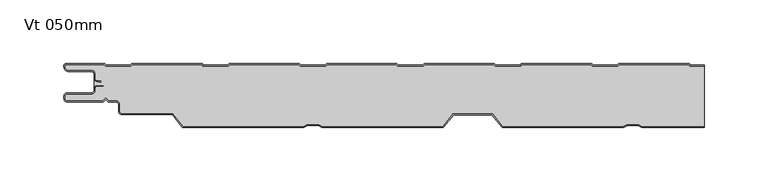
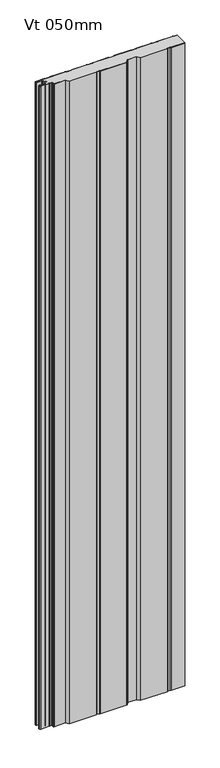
"""IFC4 building model written with IfcOpenShell, lengths in millimetres: plate geometry, KIP-MEX-KW-R19-CP-Vt-KW7_SL : Vt 050mm."""

import ifcopenshell
import ifcopenshell.guid

model = None  # the IFC model being written
_history = None  # IfcOwnerHistory: only IFC2X3 demands one
_inside = {}  # id of a spatial element -> (the spatial element, [elements in it])
_under = {}  # id of a project, library or spatial element -> (it, [spatial elements below it])
_declared = {}  # id of a project -> (the project, [libraries it declares])
_typed = {}  # id of a type object -> (the type object, [elements of that type])
_made_of = {}  # id of a material, layer set ... -> (it, [elements and type objects made of it])


def new_model(schema):
    """Start an empty IFC model of exactly this schema.

    Asked for "IFC4X3", IfcOpenShell would pick the latest addendum, in which some entities
    have other attributes; the version numbers below select the first issue.
    IFC2X3 requires an IfcOwnerHistory on every rooted entity: one is made here for all.
    """
    global model, _history
    if schema == "IFC4X3":
        model = ifcopenshell.file(schema_version=(4, 3, 0, 0))
    else:
        model = ifcopenshell.file(schema=schema)
    _inside.clear()
    _under.clear()
    _declared.clear()
    _typed.clear()
    _made_of.clear()
    _history = None
    if model.schema == "IFC2X3":
        org = make("IfcOrganization", Name="unknown")
        user = make(
            "IfcPersonAndOrganization",
            ThePerson=make("IfcPerson", FamilyName="unknown"),
            TheOrganization=org,
        )
        app = make(
            "IfcApplication",
            ApplicationDeveloper=org,
            Version="unknown",
            ApplicationFullName="unknown",
            ApplicationIdentifier="unknown",
        )
        _history = make(
            "IfcOwnerHistory",
            OwningUser=user,
            OwningApplication=app,
            ChangeAction="ADDED",
            CreationDate=0,
        )
    return model


def make(cls, **values):
    """One entity of the class cls with the attributes given. An attribute that is None is left unset."""
    return model.create_entity(
        cls, **{name: value for name, value in values.items() if value is not None}
    )


def rooted(cls, **values):
    """An entity with a GlobalId (a new one), such as an element, a storey or a relation."""
    return make(cls, GlobalId=ifcopenshell.guid.new(), OwnerHistory=_history, **values)


def si_unit(unit_type, name, prefix=None):
    """IfcSIUnit, for example si_unit("LENGTHUNIT", "METRE", prefix="MILLI")."""
    return make("IfcSIUnit", UnitType=unit_type, Prefix=prefix, Name=name)


def assignment(units):
    """IfcUnitAssignment: the units of a project."""
    return None if units is None else make("IfcUnitAssignment", Units=units)


def point(xyz):
    """IfcCartesianPoint."""
    return None if xyz is None else make("IfcCartesianPoint", Coordinates=xyz)


def direction(xyz):
    """IfcDirection."""
    return None if xyz is None else make("IfcDirection", DirectionRatios=xyz)


def frame(location, z_axis=None, x_axis=None):
    """IfcAxis2Placement3D, a coordinate frame: its origin and axes. An axis left out is left unset."""
    return make(
        "IfcAxis2Placement3D",
        Location=point(location),
        Axis=direction(z_axis),
        RefDirection=direction(x_axis),
    )


def frame_2d(location, x_axis=None):
    """IfcAxis2Placement2D, a coordinate frame in the plane: its origin and x axis."""
    return make(
        "IfcAxis2Placement2D", Location=point(location), RefDirection=direction(x_axis)
    )


def origin():
    """The frame at (0, 0, 0) with its axes left unset."""
    return frame((0.0, 0.0, 0.0))


def origin_with_axes():
    """The frame at (0, 0, 0) with the z axis (0, 0, 1) and the x axis (1, 0, 0) written out."""
    return frame((0.0, 0.0, 0.0), z_axis=(0.0, 0.0, 1.0), x_axis=(1.0, 0.0, 0.0))


def place(relative_to, where):
    """IfcLocalPlacement: puts the frame where relative to a parent placement (None: the world)."""
    return make(
        "IfcLocalPlacement", PlacementRelTo=relative_to, RelativePlacement=where
    )


def context(
    kind, dimensions, precision=None, world=None, true_north=None, identifier=None
):
    """IfcGeometricRepresentationContext, for example the 3D "Model" context."""
    return make(
        "IfcGeometricRepresentationContext",
        ContextIdentifier=identifier,
        ContextType=kind,
        CoordinateSpaceDimension=dimensions,
        Precision=precision,
        WorldCoordinateSystem=world,
        TrueNorth=true_north,
    )


def project(units=None, contexts=None):
    """IfcProject with its units and contexts."""
    return rooted(
        "IfcProject",
        Name="project",
        RepresentationContexts=contexts,
        UnitsInContext=assignment(units),
    )


def spatial(cls, under=None, at=None, **own):
    """A site, building, storey or space (cls), placed at a placement, below another one or the project."""
    s = rooted(cls, ObjectPlacement=at, **own)
    if under is not None:
        _under.setdefault(under.id(), (under, []))[1].append(s)
    return s


def polyline(points):
    """IfcPolyline through the points."""
    return make("IfcPolyline", Points=[point(p) for p in points])


def circle_curve(where, radius):
    """IfcCircle in the frame where."""
    return make("IfcCircle", Position=where, Radius=radius)


def trimmed(basis, trim1, trim2, sense, master):
    """IfcTrimmedCurve: the piece of a basis curve between two trims."""
    return make(
        "IfcTrimmedCurve",
        BasisCurve=basis,
        Trim1=trim1,
        Trim2=trim2,
        SenseAgreement=sense,
        MasterRepresentation=master,
    )


def segment(curve, same_sense, transition):
    """IfcCompositeCurveSegment."""
    return make(
        "IfcCompositeCurveSegment",
        Transition=transition,
        SameSense=same_sense,
        ParentCurve=curve,
    )


def composite_curve(segments, self_intersect=None):
    """IfcCompositeCurve: segments joined end to end."""
    return make("IfcCompositeCurve", Segments=segments, SelfIntersect=self_intersect)


def outline(outer, holes=None, kind="AREA"):
    """IfcArbitraryClosedProfileDef: a profile drawn as a closed curve; with holes, ...WithVoids."""
    if holes is None:
        return make("IfcArbitraryClosedProfileDef", ProfileType=kind, OuterCurve=outer)
    return make(
        "IfcArbitraryProfileDefWithVoids",
        ProfileType=kind,
        OuterCurve=outer,
        InnerCurves=holes,
    )


def extrude(swept, where, along, depth):
    """IfcExtrudedAreaSolid: the profile swept, set in the frame where, extruded along a direction by depth."""
    return make(
        "IfcExtrudedAreaSolid",
        SweptArea=swept,
        Position=where,
        ExtrudedDirection=direction(along),
        Depth=depth,
    )


def shape(context_of_items, identifier, shape_type, items):
    """IfcShapeRepresentation: the items that make up one representation, for example the "Body"."""
    return make(
        "IfcShapeRepresentation",
        ContextOfItems=context_of_items,
        RepresentationIdentifier=identifier,
        RepresentationType=shape_type,
        Items=items,
    )


def source(mapping_origin, context_of_items, identifier, shape_type, items):
    """IfcRepresentationMap: a shape defined once, which mapped items show again and again."""
    return make(
        "IfcRepresentationMap",
        MappingOrigin=mapping_origin,
        MappedRepresentation=shape(context_of_items, identifier, shape_type, items),
    )


def transform(
    local_origin,
    x_axis=None,
    y_axis=None,
    z_axis=None,
    scale=None,
    scale2=None,
    scale3=None,
    uniform=True,
):
    """IfcCartesianTransformationOperator3D, or its non-uniform kind. x_axis, y_axis, z_axis: its Axis1, 2, 3."""
    if uniform:
        return make(
            "IfcCartesianTransformationOperator3D",
            Axis1=direction(x_axis),
            Axis2=direction(y_axis),
            LocalOrigin=point(local_origin),
            Scale=scale,
            Axis3=direction(z_axis),
        )
    return make(
        "IfcCartesianTransformationOperator3DnonUniform",
        Axis1=direction(x_axis),
        Axis2=direction(y_axis),
        LocalOrigin=point(local_origin),
        Scale=scale,
        Axis3=direction(z_axis),
        Scale2=scale2,
        Scale3=scale3,
    )


def mapped(mapping_source, mapping_target):
    """IfcMappedItem: shows the shape of a source again, moved by a transform."""
    return make(
        "IfcMappedItem", MappingSource=mapping_source, MappingTarget=mapping_target
    )


def made_of(thing, what):
    """Note that an element or type object is made of a material, layer set ...; save() writes the relation."""
    if what is not None:
        _made_of.setdefault(what.id(), (what, []))[1].append(thing)
    return thing


def element(
    cls,
    number,
    at=None,
    inside=None,
    cuts=None,
    type_object=None,
    material=None,
    context=None,
    identifier="Body",
    shape_type=None,
    held_by="IfcProductDefinitionShape",
    body=None,
    shapes=None,
    **own,
):
    """One element of the class cls, such as IfcWall. Its Tag is "e" and its number.

    at: its placement. inside: the storey or other place that contains it. cuts: it is an
    opening in that element (IfcRelVoidsElement). A single representation is given by context,
    identifier, shape_type and body (its items); several are given by shapes. held_by: the class
    of the entity that holds the representations. save() writes the other relations.
    """
    e = rooted(cls, Tag="e%d" % number, ObjectPlacement=at, **own)
    if body is not None:
        shapes = [shape(context, identifier, shape_type, body)]
    if shapes is not None:
        e.Representation = make(held_by, Representations=shapes)
    if inside is not None:
        _inside.setdefault(inside.id(), (inside, []))[1].append(e)
    if cuts is not None:
        rooted(
            "IfcRelVoidsElement", RelatingBuildingElement=cuts, RelatedOpeningElement=e
        )
    if type_object is not None:
        _typed.setdefault(type_object.id(), (type_object, []))[1].append(e)
    return made_of(e, material)


def aggregate(whole, parts):
    """IfcRelAggregates: a whole, such as a stair, and the parts it consists of."""
    return rooted("IfcRelAggregates", RelatingObject=whole, RelatedObjects=parts)


def save(model, path):
    """Write the relations noted so far, then the file.

    IfcRelAggregates (storeys below a building ...), IfcRelContainedInSpatialStructure (elements
    in a storey), IfcRelDefinesByType, IfcRelAssociatesMaterial and IfcRelDeclares: one each for
    every whole, place, type object, material and project.
    """
    for whole, parts in _under.values():
        aggregate(whole, parts)
    for where, things in _inside.values():
        rooted(
            "IfcRelContainedInSpatialStructure",
            RelatedElements=things,
            RelatingStructure=where,
        )
    for kind, things in _typed.values():
        rooted("IfcRelDefinesByType", RelatedObjects=things, RelatingType=kind)
    for what, things in _made_of.values():
        rooted("IfcRelAssociatesMaterial", RelatedObjects=things, RelatingMaterial=what)
    for by, libraries in _declared.values():
        rooted("IfcRelDeclares", RelatingContext=by, RelatedDefinitions=libraries)
    model.write(path)


def vt_050mm_d47c93f8(model_context):
    return source(origin(), model_context, "Body", "SweptSolid", [
        extrude(outline(composite_curve([segment(polyline([(225.9039135, -2.1994992), (236.9739551, -2.1994992), (236.9739551, -49.0007512), (188.3805585, -49.0007512), (185.3803716, -47.5007486), (176.9082613, -47.5007486), (173.9080744, -49.0007512), (79.6249413, -49.0007512), (71.6249413, -39.0007512), (40.6636916, -39.0007512), (32.6636916, -49.0007512), (-61.6194415, -49.0007512), (-64.6196284, -47.5007486), (-73.0917387, -47.5007486), (-76.0919256, -49.0007512), (-170.3679967, -49.0007512), (-178.2758107, -38.8807501), (-218.2556822, -38.8807501)]), True, "CONTINUOUS"), segment(trimmed(circle_curve(frame_2d((-218.2060101, -37.3815743)), 1.4999984), [point((-218.2556822, -38.8807501))], [point((-219.7060085, -37.3815743))], False, "CARTESIAN"), True, "CONTINUOUS"), segment(polyline([(-219.7060085, -37.3815743), (-219.7060085, -31.8815682)]), True, "CONTINUOUS"), segment(trimmed(circle_curve(frame_2d((-222.7060141, -31.8815682)), 3.0000056), [point((-219.7060085, -31.8815682))], [point((-222.7060141, -28.8815626))], True, "CARTESIAN"), True, "CONTINUOUS"), segment(polyline([(-222.7060141, -28.8815626), (-228.2917754, -28.8815626), (-230.7060114, -26.4674051), (-233.1202474, -28.8817196), (-261.0062104, -28.8817196)]), True, "CONTINUOUS"), segment(trimmed(circle_curve(frame_2d((-261.0062104, -27.3814897)), 1.5002298), [point((-261.0062104, -28.8817196))], [point((-262.5064402, -27.3814897))], False, "CARTESIAN"), True, "CONTINUOUS"), segment(polyline([(-262.5064402, -27.3814897), (-262.5064402, -25.3983418)]), True, "CONTINUOUS"), segment(trimmed(circle_curve(frame_2d((-261.0055873, -25.3983418)), 1.5008529), [point((-262.5064402, -25.3983418))], [point((-261.0430722, -23.8979571))], False, "CARTESIAN"), True, "CONTINUOUS"), segment(polyline([(-261.0430722, -23.8979571), (-242.0059123, -23.8979571)]), True, "CONTINUOUS"), segment(trimmed(circle_curve(frame_2d((-242.0059123, -20.8966056)), 3.0013516), [point((-242.0059123, -23.8979571))], [point((-239.0056877, -20.8143642))], True, "CARTESIAN"), True, "CONTINUOUS"), segment(polyline([(-239.0056877, -20.8143642), (-239.0056877, -19.3893811)]), True, "CONTINUOUS"), segment(trimmed(circle_curve(frame_2d((-237.5051476, -19.3893811)), 1.5005402), [point((-239.0056877, -19.3893811))], [point((-237.5062722, -17.8888414))], False, "CARTESIAN"), True, "CONTINUOUS"), segment(polyline([(-237.5062722, -17.8888414), (-232.2480455, -17.8888414), (-232.2480455, -16.8719911), (-237.5115852, -16.8719911)]), True, "CONTINUOUS"), segment(trimmed(circle_curve(frame_2d((-237.5097191, -19.3622712)), 2.4902807), [point((-237.5115852, -16.8719911))], [point((-239.9999998, -19.3622712))], True, "CARTESIAN"), True, "CONTINUOUS"), segment(polyline([(-239.9999998, -19.3622712), (-239.9999998, -11.7956848)]), True, "CONTINUOUS"), segment(trimmed(circle_curve(frame_2d((-237.507267, -11.5959632)), 2.500721), [point((-239.9999998, -11.7956848))], [point((-237.9396711, -14.0590167))], True, "CARTESIAN"), True, "CONTINUOUS"), segment(polyline([(-237.9396711, -14.0590167), (-234.3973739, -14.6808886), (-234.2244628, -13.6959552), (-237.7667627, -13.0740827)]), True, "CONTINUOUS"), segment(trimmed(circle_curve(frame_2d((-237.5072716, -11.5959732)), 1.5007143), [point((-237.7667627, -13.0740827))], [point((-239.0079859, -11.5959732))], False, "CARTESIAN"), True, "CONTINUOUS"), segment(polyline([(-239.0079859, -11.5959732), (-239.0079859, -8.000131)]), True, "CONTINUOUS"), segment(trimmed(circle_curve(frame_2d((-242.0093089, -8.002219)), 3.0013237), [point((-239.0079859, -8.000131))], [point((-242.0093089, -5.0008953))], True, "CARTESIAN"), True, "CONTINUOUS"), segment(polyline([(-242.0093089, -5.0008953), (-260.0061347, -5.0008953)]), True, "CONTINUOUS"), segment(trimmed(circle_curve(frame_2d((-260.0061347, -2.5012654)), 2.4996299), [point((-260.0061347, -5.0008953))], [point((-262.5057646, -2.5012654))], False, "CARTESIAN"), True, "CONTINUOUS"), segment(polyline([(-262.5057646, -2.5012654), (-262.5057646, -1.0), (-232.0999194, -1.0), (-231.0133951, -2.1994992), (-211.0814168, -2.1994992), (-209.9948925, -1.0), (-155.9470346, -1.0), (-154.8605103, -2.1994992), (-134.928532, -2.1994992), (-133.8420077, -1.0), (-79.7941498, -1.0), (-78.7076256, -2.1994992), (-58.7756472, -2.1994992), (-57.689123, -1.0), (-3.6412651, -1.0), (-2.5547408, -2.1994992), (17.3772375, -2.1994992), (18.4637618, -1.0), (72.5116197, -1.0), (73.598144, -2.1994992), (93.5301223, -2.1994992), (94.6152208, -1.0), (148.6645044, -1.0), (149.7510287, -2.1994992), (169.683007, -2.1994992), (170.7695313, -1.0), (224.8173892, -1.0), (225.9039135, -2.1994992)]), True, "CONTINUOUS")], self_intersect=False)), origin_with_axes(), (0.0, 0.0, 1.0), 2400.0),
        extrude(outline(composite_curve([segment(polyline([(226.3473579, -1.1979254), (236.9739551, -1.1979254), (236.9739551, -2.1979254), (225.9039135, -2.1979254), (224.8173892, -0.9984262), (170.7695313, -0.9984262), (169.683007, -2.1979254), (149.7510287, -2.1979254), (148.6645044, -0.9984262), (94.6166466, -0.9984262), (93.5301223, -2.1979254), (73.598144, -2.1979254), (72.5116197, -0.9984262), (18.462336, -0.9984262), (17.3772375, -2.1979254), (-2.5547408, -2.1979254), (-3.6412651, -0.9984262), (-57.6905487, -0.9984262), (-58.7756472, -2.1979254), (-78.7076256, -2.1979254), (-79.7941498, -0.9984262), (-133.8434335, -0.9984262), (-134.928532, -2.1979254), (-154.8605103, -2.1979254), (-155.9470346, -0.9984262), (-209.9963182, -0.9984262), (-211.0814168, -2.1979254), (-231.0133951, -2.1979254), (-232.0999194, -0.9984262), (-262.5058795, -0.9984262), (-262.5058795, -2.4998352)]), True, "CONTINUOUS"), segment(trimmed(circle_curve(frame_2d((-260.0060773, -2.4998352)), 2.4998022), [point((-262.5058795, -2.4998352))], [point((-260.0060773, -4.9996374))], True, "CARTESIAN"), True, "CONTINUOUS"), segment(polyline([(-260.0060773, -4.9996374), (-242.0051314, -4.9996374)]), True, "CONTINUOUS"), segment(trimmed(circle_curve(frame_2d((-242.0051314, -8.0003457)), 3.0007082), [point((-242.0051314, -4.9996374))], [point((-239.0044239, -7.9982581))], False, "CARTESIAN"), True, "CONTINUOUS"), segment(polyline([(-239.0044239, -7.9982581), (-239.0044239, -11.5945268)]), True, "CONTINUOUS"), segment(trimmed(circle_curve(frame_2d((-237.504025, -11.5945268)), 1.5003989), [point((-239.0044239, -11.5945268))], [point((-237.7635333, -13.072313))], True, "CARTESIAN"), True, "CONTINUOUS"), segment(polyline([(-237.7635333, -13.072313), (-234.2214587, -13.694323), (-234.3944392, -14.679371), (-237.9367138, -14.0573259)]), True, "CONTINUOUS"), segment(trimmed(circle_curve(frame_2d((-237.5042133, -11.5944251)), 2.5005873), [point((-237.9367138, -14.0573259))], [point((-240.0048002, -11.5958995))], False, "CARTESIAN"), True, "CONTINUOUS"), segment(polyline([(-240.0048002, -11.5958995), (-240.0048002, -7.9987586)]), True, "CONTINUOUS"), segment(trimmed(circle_curve(frame_2d((-242.0053159, -8.0002578)), 2.0005162), [point((-240.0048002, -7.9987586))], [point((-242.0053159, -5.9997416))], True, "CARTESIAN"), True, "CONTINUOUS"), segment(polyline([(-242.0053159, -5.9997416), (-260.0060748, -5.9997416)]), True, "CONTINUOUS"), segment(trimmed(circle_curve(frame_2d((-260.0060748, -2.4998716)), 3.49987), [point((-260.0060748, -5.9997416))], [point((-263.5059449, -2.4998716))], False, "CARTESIAN"), True, "CONTINUOUS"), segment(polyline([(-263.5059449, -2.4998716), (-263.5059449, -1.4999879)]), True, "CONTINUOUS"), segment(trimmed(circle_curve(frame_2d((-262.0059812, -1.4999879)), 1.4999637), [point((-263.5059449, -1.4999879))], [point((-262.0059812, -2.42e-05))], False, "CARTESIAN"), True, "CONTINUOUS"), segment(polyline([(-262.0059812, -2.42e-05), (-231.6550494, -2.42e-05), (-230.5699507, -1.1979254), (-211.5248611, -1.1979254), (-210.4383368, 0.0), (-155.5021646, 0.0), (-154.4170659, -1.1979254), (-135.3719764, -1.1979254), (-134.2854521, 0.0), (-79.3492799, 0.0), (-78.2641812, -1.1979254), (-59.2190916, -1.1979254), (-58.1325673, 0.0), (-3.1963951, 0.0), (-2.1112964, -1.1979254), (16.9337932, -1.1979254), (18.0203174, 0.0), (72.9564896, 0.0), (74.0415883, -1.1979254), (93.0866779, -1.1979254), (94.1732022, 0.0), (149.1093744, 0.0), (150.1944731, -1.1979254), (169.2395627, -1.1979254), (170.326087, 0.0), (225.2622592, 0.0), (226.3473579, -1.1979254)]), True, "CONTINUOUS")], self_intersect=False)), origin_with_axes(), (0.0, 0.0, 1.0), 2400.0),
        extrude(outline(composite_curve([segment(polyline([(188.3805585, -49.0), (236.9739551, -49.0), (236.9739551, -50.0), (188.1445033, -50.0), (185.1443164, -48.4999975), (177.1443165, -48.4999975), (174.1443165, -49.9999065), (79.1443164, -49.9999065), (71.1443164, -40.0), (41.1443164, -40.0), (33.1443164, -50.0), (-61.8554967, -50.0), (-64.8556836, -48.4999975), (-72.8556835, -48.4999975), (-75.8556835, -49.9999065), (-170.8556836, -49.9999065), (-178.7634976, -39.879999), (-218.2701401, -39.879999)]), True, "CONTINUOUS"), segment(trimmed(circle_curve(frame_2d((-218.2060102, -37.3808232)), 2.4999985), [point((-218.2701401, -39.879999))], [point((-220.7060087, -37.3808232))], False, "CARTESIAN"), True, "CONTINUOUS"), segment(polyline([(-220.7060087, -37.3808232), (-220.7060087, -31.8808174)]), True, "CONTINUOUS"), segment(trimmed(circle_curve(frame_2d((-222.706014, -31.8808174)), 2.0000053), [point((-220.7060087, -31.8808174))], [point((-222.706014, -29.8808121))], True, "CARTESIAN"), True, "CONTINUOUS"), segment(polyline([(-222.706014, -29.8808121), (-228.7059904, -29.8808121), (-230.7060114, -27.8808646), (-232.7060324, -29.8809591), (-261.0061977, -29.8809591)]), True, "CONTINUOUS"), segment(trimmed(circle_curve(frame_2d((-261.0061977, -27.380744)), 2.5002152), [point((-261.0061977, -29.8809591))], [point((-263.5064128, -27.380744))], False, "CARTESIAN"), True, "CONTINUOUS"), segment(polyline([(-263.5064128, -27.380744), (-263.5064128, -25.3976441)]), True, "CONTINUOUS"), segment(trimmed(circle_curve(frame_2d((-261.0056167, -25.3976441)), 2.5007962), [point((-263.5064128, -25.3976441))], [point((-261.0540005, -22.897316))], False, "CARTESIAN"), True, "CONTINUOUS"), segment(polyline([(-261.0540005, -22.897316), (-242.0056629, -22.897316)]), True, "CONTINUOUS"), segment(trimmed(circle_curve(frame_2d((-242.0056629, -20.8957279)), 2.0015882), [point((-242.0056629, -22.897316))], [point((-240.0040753, -20.8942278))], True, "CARTESIAN"), True, "CONTINUOUS"), segment(polyline([(-240.0040753, -20.8942278), (-240.0040753, -19.4646208)]), True, "CONTINUOUS"), segment(trimmed(circle_curve(frame_2d((-237.5056407, -19.3896216)), 2.4995601), [point((-240.0040753, -19.4646208))], [point((-237.5075139, -16.8900623))], False, "CARTESIAN"), True, "CONTINUOUS"), segment(polyline([(-237.5075139, -16.8900623), (-232.2480455, -16.8900623), (-232.2480455, -17.8880903), (-237.5062721, -17.8880903)]), True, "CONTINUOUS"), segment(trimmed(circle_curve(frame_2d((-237.5051475, -19.3886299)), 1.5005401), [point((-237.5062721, -17.8880903))], [point((-239.0056876, -19.3886299))], True, "CARTESIAN"), True, "CONTINUOUS"), segment(polyline([(-239.0056876, -19.3886299), (-239.0056876, -20.8136131)]), True, "CONTINUOUS"), segment(trimmed(circle_curve(frame_2d((-242.005912, -20.8958545)), 3.0013514), [point((-239.0056876, -20.8136131))], [point((-242.005912, -23.8972059))], False, "CARTESIAN"), True, "CONTINUOUS"), segment(polyline([(-242.005912, -23.8972059), (-261.0430722, -23.8972058)]), True, "CONTINUOUS"), segment(trimmed(circle_curve(frame_2d((-261.0055873, -25.3975906)), 1.5008529), [point((-261.0430722, -23.8972058))], [point((-262.5064402, -25.3975906))], True, "CARTESIAN"), True, "CONTINUOUS"), segment(polyline([(-262.5064402, -25.3975906), (-262.5064402, -27.3807386)]), True, "CONTINUOUS"), segment(trimmed(circle_curve(frame_2d((-261.0062104, -27.3807386)), 1.5002298), [point((-262.5064402, -27.3807386))], [point((-261.0062104, -28.8809684))], True, "CARTESIAN"), True, "CONTINUOUS"), segment(polyline([(-261.0062104, -28.8809684), (-233.1202474, -28.8809684), (-230.7060114, -26.4666539), (-228.2917754, -28.8808114), (-222.7060142, -28.8808114)]), True, "CONTINUOUS"), segment(trimmed(circle_curve(frame_2d((-222.7060142, -31.8808171)), 3.0000056), [point((-222.7060142, -28.8808114))], [point((-219.7060085, -31.8808171))], False, "CARTESIAN"), True, "CONTINUOUS"), segment(polyline([(-219.7060085, -31.8808171), (-219.7060085, -37.3808232)]), True, "CONTINUOUS"), segment(trimmed(circle_curve(frame_2d((-218.2060101, -37.3808232)), 1.4999984), [point((-219.7060085, -37.3808232))], [point((-218.2556822, -38.8799989))], True, "CARTESIAN"), True, "CONTINUOUS"), segment(polyline([(-218.2556822, -38.8799989), (-178.2758107, -38.8799989), (-170.3679967, -49.0), (-76.0919256, -49.0), (-73.0917387, -47.4999975), (-64.6196285, -47.4999975), (-61.6194415, -49.0), (32.6636916, -49.0), (40.6636916, -39.0), (71.6249413, -39.0), (79.6249413, -49.0), (173.9080744, -49.0), (176.9082613, -47.4999975), (185.3803715, -47.4999975), (188.3805585, -49.0)]), True, "CONTINUOUS")], self_intersect=False)), origin_with_axes(), (0.0, 0.0, 1.0), 2400.0),
    ])


if __name__ == "__main__":
    model = new_model("IFC4")
    model_context = context("Model", 3, world=origin())
    ifc_project = project(units=[si_unit("LENGTHUNIT", "METRE", prefix="MILLI")], contexts=[model_context])
    site = spatial("IfcSite", under=ifc_project)
    building = spatial("IfcBuilding", under=site)
    placement = place(None, origin())
    vt_050mm_shape = vt_050mm_d47c93f8(model_context)
    element("IfcPlate", 1, ObjectType="KIP-MEX-KW-R19-CP-Vt-KW7_SL : Vt 050mm", at=placement, inside=building, context=model_context, shape_type="MappedRepresentation", body=[
        mapped(vt_050mm_shape, transform((0.0, 0.0, 0.0), x_axis=(1.0, 0.0, 0.0), y_axis=(0.0, 1.0, 0.0), z_axis=(0.0, 0.0, 1.0))),
    ])
    save(model, "model.ifc")
